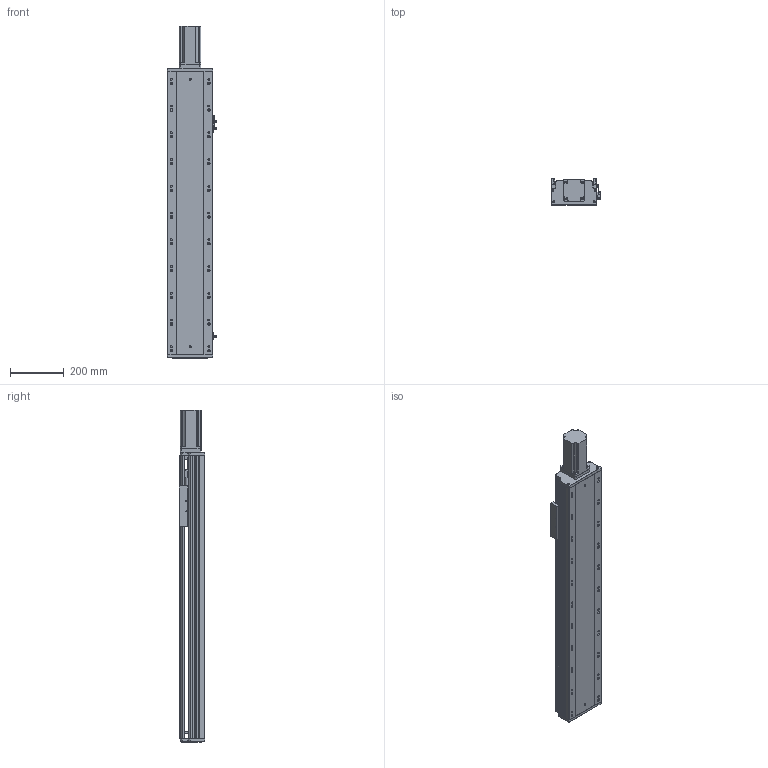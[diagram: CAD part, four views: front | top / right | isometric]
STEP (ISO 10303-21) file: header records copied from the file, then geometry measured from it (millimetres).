
FILE_DESCRIPTION (( 'STEP AP203' ), '1' );
FILE_NAME ('RY170-L2510-300-MK(FK17).SLDASM_750.step', '2022-08-23T02:00:33', ( '' ), ( '' ), 'SwSTEP 2.0', 'SolidWorks 2016', '' );
FILE_SCHEMA (( 'CONFIG_CONTROL_DESIGN' ));
Length unit declared in the file: millimetre
Products named in the file (15): RY170外置感应片(200共用）; RY170电机端支撑座(25丝杆7004轴承)-压铸(FK17); 侂狟750W萇儂ㄗ80遺ㄘ; RY170綴裔啣; 覜茼ん672; 750W萇儂梓袧蛌諉啣; RY170-300倰第裔啣-MK_750; RY170-L2510-300-MK(FK17).SLDASM_750; RY170ヶ醱裔啣; 侂狟400W侜督萇儂; RY170-300倰第菁釱-MK_750; 滅袉蝶18-28; 15; RY170臏賑輸25佪裝蹟譫; 滅袉蝶18-10
Assembly tree (16 placements, depth 3):
  RY170-L2510-300-MK(FK17).SLDASM_750
    RY170-300倰第菁釱-MK_750
    RY170-300倰第裔啣-MK_750
    RY170臏賑輸25佪裝蹟譫
    侂狟400W侜督萇儂
      15
    RY170綴裔啣
    RY170电机端支撑座(25丝杆7004轴承)-压铸(FK17)
    覜茼ん672  x3
    RY170外置感应片(200共用）
    RY170ヶ醱裔啣
    滅袉蝶18-28
    滅袉蝶18-10
    侂狟750W萇儂ㄗ80遺ㄘ
    750W萇儂梓袧蛌諉啣
Bounding box: 183.7 x 97 x 1241 mm (x, y, z)
Volume: 6682829.5 mm3; surface area: 1936329.5 mm2
Topology: 15 solids, 15 shells, 2263 faces, 6583 edges, 4212 vertices
Faces by surface type: plane 1014, cylinder 974, cone 239, bspline 36
Entity records: 74651 total; most frequent: CARTESIAN_POINT 17832, ORIENTED_EDGE 11882, DIRECTION 11303, EDGE_CURVE 5941, AXIS2_PLACEMENT_3D 3944, VERTEX_POINT 3892, LINE 3415, VECTOR 3415
